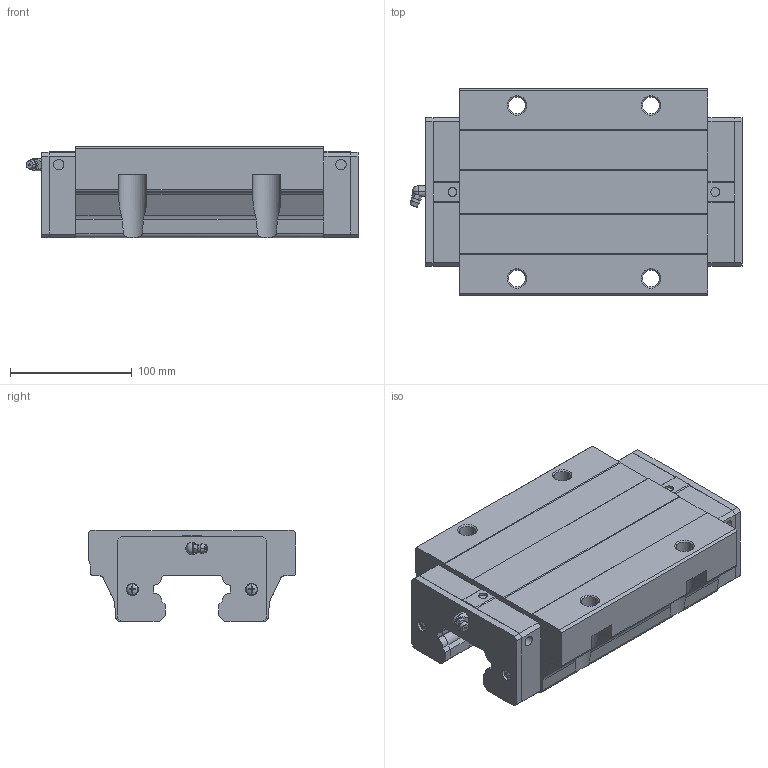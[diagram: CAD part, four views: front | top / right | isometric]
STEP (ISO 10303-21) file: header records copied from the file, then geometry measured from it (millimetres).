
FILE_DESCRIPTION(('starvars output'),'2;1');
FILE_NAME('cv20190625231012000114639.stp','23:10:12 2019/06/25',( 'Thomas Industrial Network Germany GmbH'),( 'Thomas Industrial Network Germany GmbH'),'unknown preprocess','ACIS' ,'unknown authorization');
FILE_SCHEMA(('CONFIG_CONTROL_DESIGN {UNKNOWN IMPLEMENTATION LEVEL}'));
Length unit declared in the file: millimetre
Products named in the file (10): PRODUCT_ID_1; PRODUCT_ID_2; PRODUCT_ID_3; PRODUCT_ID_4; PRODUCT_ID_5; PRODUCT_ID_6; PRODUCT_ID_7; PRODUCT_ID_8; PRODUCT_ID_9; PRODUCT_ID_10
Bounding box: 272.5 x 170 x 75 mm (x, y, z)
Volume: 2207471.8 mm3; surface area: 221229 mm2
Topology: 10 solids, 10 shells, 422 faces, 1099 edges, 707 vertices
Faces by surface type: plane 267, cylinder 81, cone 62, sphere 12
Entity records: 12450 total; most frequent: ORIENTED_EDGE 2190, CARTESIAN_POINT 2179, DIRECTION 1675, EDGE_CURVE 1095, VERTEX_POINT 707, VECTOR 677, LINE 677, AXIS2_PLACEMENT_3D 499
